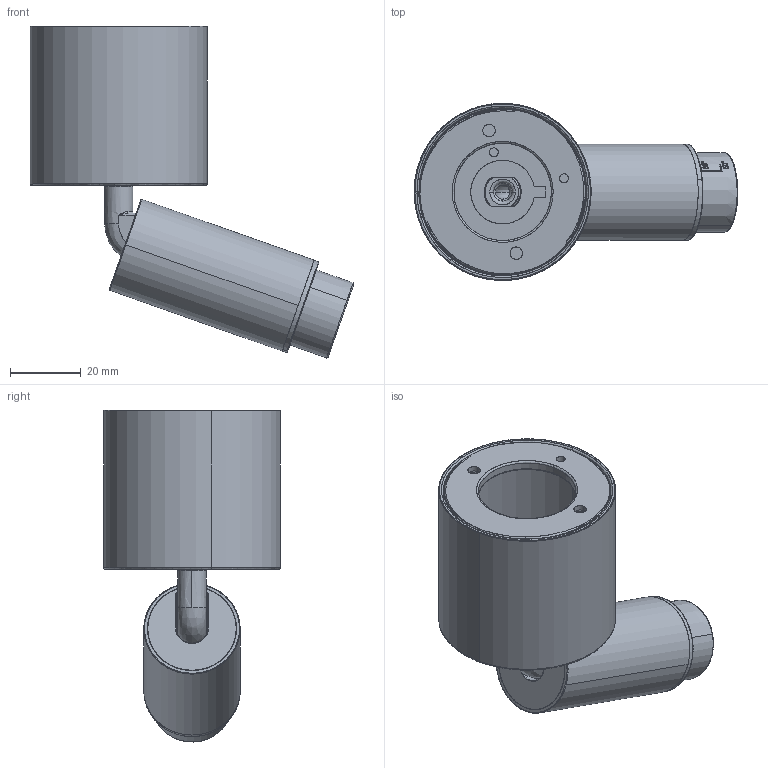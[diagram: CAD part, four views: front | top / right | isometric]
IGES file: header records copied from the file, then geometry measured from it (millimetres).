
Start section: SolidWorks IGES file using analytic representation for surfaces
Global section: file name: \\ARNOLD\compartida\Nueva Coleccion Septiembre 2026\ARQUITECTURAL\SEITY_informacion\SEITY_imagenes y 3d\Required documents_0706\3D STEP file - downlights\LONG T0335\102113-35T.STEP.IGS; native system: SolidWorks 2023; preprocessor: SolidWorks 2023; author: adrian; date: 260828.101104; units: millimetre
Bounding box: 91.41 x 50 x 93.77 mm (x, y, z)
Surface area: 46578.6 mm2 (no closed solid volume)
Topology: 0 solids, 0 shells, 1069 faces, 13987 edges, 13969 vertices
Faces by surface type: bspline 579, revolution 490
